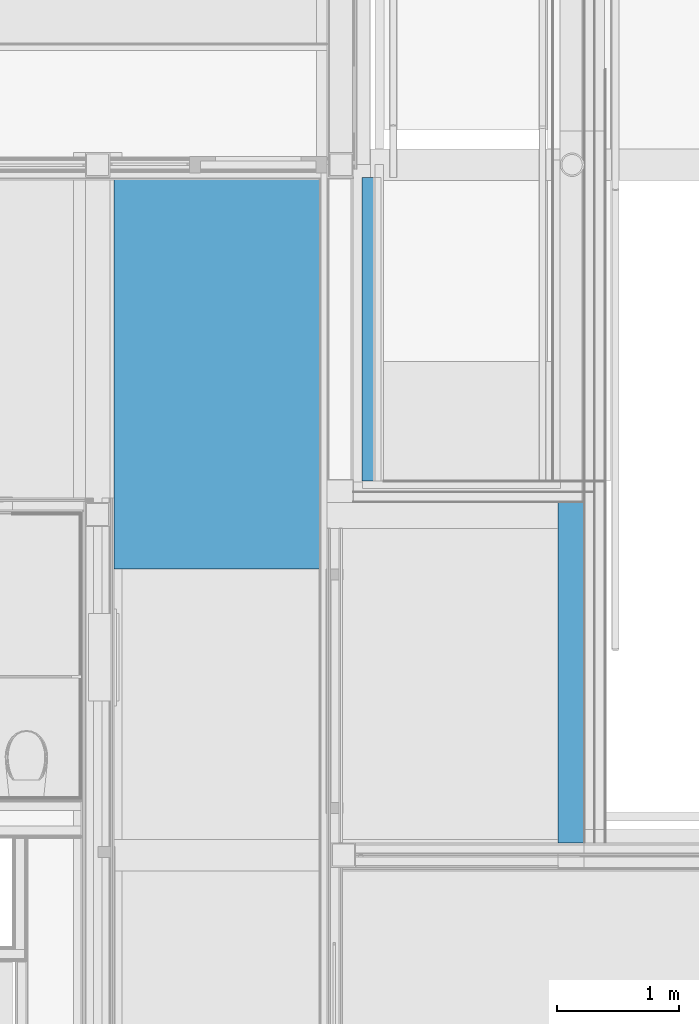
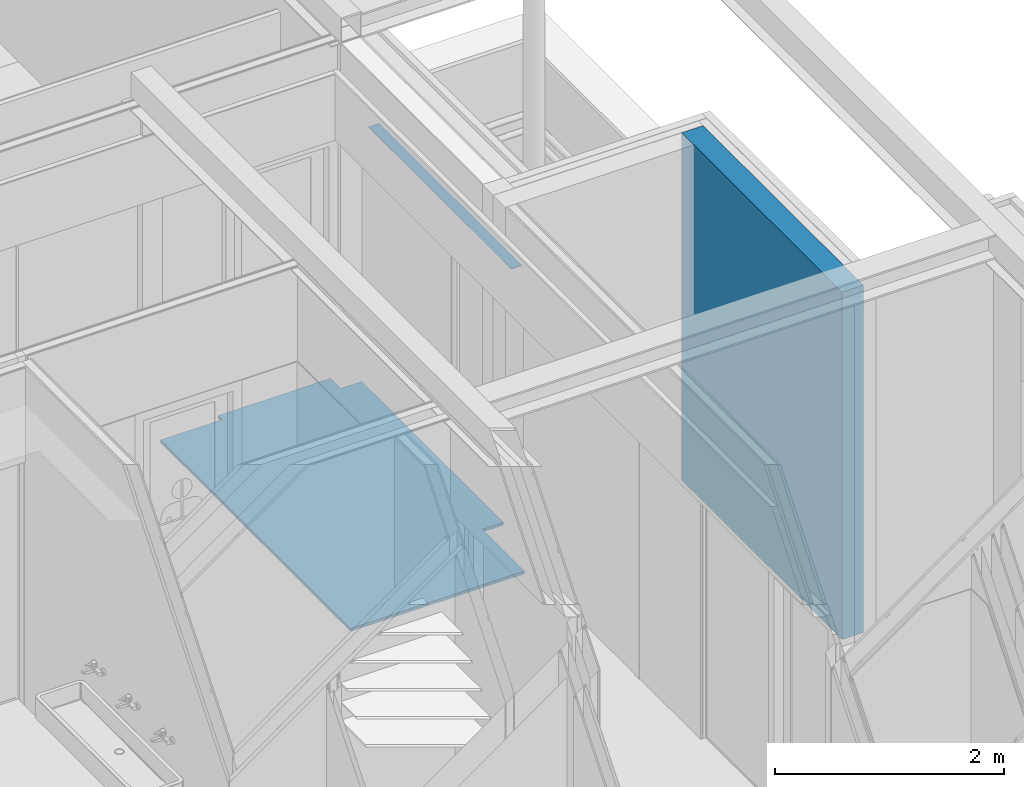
# One storey, part 90 of 137: 3 building element parts, 3 elements without a shape of their own.
"""IFC2X3 building model written with IfcOpenShell, lengths in millimetres."""

from ifc_helpers import new_model, entity, si_unit, converted_unit, derived_unit, money_unit, direction, frame, origin_with_axes, place, context, subcontext, project, spatial, faceted_brep, material, type_object, element, aggregate, save


model = new_model("IFC2X3")

# Units and contexts
model_context = context("Model", 3, precision=0.01, world=origin_with_axes(), true_north=direction((0.0, 1.0)))
body_context = subcontext(model_context, "Body", "Model", "MODEL_VIEW")
ifc_project = project(units=[si_unit("LENGTHUNIT", "METRE", prefix="MILLI"), si_unit("AREAUNIT", "SQUARE_METRE"), si_unit("VOLUMEUNIT", "CUBIC_METRE"), converted_unit("PLANEANGLEUNIT", "DEGREE", entity("IfcPlaneAngleMeasure", 0.0174532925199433), si_unit("PLANEANGLEUNIT", "RADIAN"), dimensions=[0, 0, 0, 0, 0, 0, 0]), money_unit("EUR"), converted_unit("TIMEUNIT", "Year", entity("IfcTimeMeasure", 31556926.0), si_unit("TIMEUNIT", "SECOND"), dimensions=[0, 0, 1, 0, 0, 0, 0]), si_unit("MASSUNIT", "GRAM", prefix="KILO"), si_unit("THERMODYNAMICTEMPERATUREUNIT", "DEGREE_CELSIUS"), si_unit("LUMINOUSINTENSITYUNIT", "LUMEN"), si_unit("ENERGYUNIT", "JOULE", prefix="MEGA"), derived_unit("THERMALCONDUCTANCEUNIT", [(si_unit("POWERUNIT", "WATT"), 1), (si_unit("LENGTHUNIT", "METRE"), -1), (si_unit("THERMODYNAMICTEMPERATUREUNIT", "KELVIN"), -1)]), derived_unit("SPECIFICHEATCAPACITYUNIT", [(si_unit("ENERGYUNIT", "JOULE"), 1), (si_unit("MASSUNIT", "GRAM", prefix="KILO"), -1), (si_unit("THERMODYNAMICTEMPERATUREUNIT", "KELVIN"), -1)]), derived_unit("MASSDENSITYUNIT", [(si_unit("MASSUNIT", "GRAM", prefix="KILO"), 1), (si_unit("VOLUMEUNIT", "CUBIC_METRE"), -1)])], contexts=[model_context])

# Site, building, storey
site_placement = place(None, origin_with_axes())
site = spatial("IfcSite", under=ifc_project, at=site_placement, Name="Site", CompositionType="ELEMENT")
building_placement = place(site_placement, origin_with_axes())
building = spatial("IfcBuilding", under=site, at=building_placement, Name="Naam gebouw", CompositionType="ELEMENT")
storey_placement = place(building_placement, frame((0.0, 0.0, 3960.0), z_axis=(0.0, 0.0, 1.0), x_axis=(1.0, 0.0, 0.0)))
storey = spatial("IfcBuildingStorey", under=building, at=storey_placement, Name="1e verdieping", CompositionType="ELEMENT", Elevation=3960.0)

# Wall, building element part
wall_type = type_object("IfcWallType", Name="21 STO Buitengevelisolatie 160 390", PredefinedType="NOTDEFINED")
wall_placement = place(storey_placement, frame((28500.00002397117, 19550.00039292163, -100.0000000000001), z_axis=(0.0, 0.0, 1.0), x_axis=(0.0, -1.0, 0.0)))
wall = element("IfcWall", 1, at=wall_placement, inside=storey, type_object=wall_type, Name="21_Wand-x")
ifc_material_1 = material(Name="Steen - Kalkzandsteen C")
building_element_part_1_placement = place(wall_placement, origin_with_axes())
building_element_part_1 = element("IfcBuildingElementPart", 2, at=building_element_part_1_placement, material=ifc_material_1, Name="Steen - Kalkzandsteen C", context=body_context, shape_type="Brep", body=[
    faceted_brep([(0.0, 0.0, 0.0), (0.0, -213.9999999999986, 0.0), (0.0, -213.9999999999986, 3700.0), (0.0, 0.0, 3700.0), (2799.002611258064, 0.0, 0.0), (2799.002611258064, -213.9999999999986, 0.0), (2799.002611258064, -213.9999999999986, 3700.0), (2799.002611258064, 0.0, 3700.0)], [[[0, 1, 2, 3]], [[0, 4, 5, 1]], [[1, 5, 6, 2]], [[2, 6, 7, 3]], [[4, 0, 3, 7]], [[5, 4, 7, 6]]]),
])
aggregate(wall, [building_element_part_1])

# Beam, building element part
beam_type = type_object("IfcBeamType", Name="41 Latei/geveldrager 158 x 112", PredefinedType="BEAM")
beam_placement = place(storey_placement, frame((26780.0, 22221.00039272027, 2610.0), z_axis=(0.0, 0.0, 1.0), x_axis=(-1.0, 0.0, 0.0)))
beam = element("IfcBeam", 3, at=beam_placement, inside=storey, type_object=beam_type, Name="_Regenwaterafvoer-x", ObjectType="BEAM")
ifc_material_2 = material(Name="Metaal - Staal C")
building_element_part_2_placement = place(beam_placement, origin_with_axes())
building_element_part_2 = element("IfcBuildingElementPart", 4, at=building_element_part_2_placement, material=ifc_material_2, Name="Metaal - Staal C", context=body_context, shape_type="Brep", body=[
    faceted_brep([(3.000000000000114, 2494.999999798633, -3.000000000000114), (108.0000000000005, 2494.999999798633, -3.000000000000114), (108.0000000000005, 0.0, -3.000000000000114), (3.000000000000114, 0.0, -3.000000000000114), (3.000000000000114, 2494.999999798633, 0.0), (108.0000000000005, 2494.999999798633, 0.0), (108.0000000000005, 0.0, 0.0), (3.000000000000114, 0.0, 0.0)], [[[0, 1, 2, 3]], [[0, 4, 5, 1]], [[1, 5, 6, 2]], [[3, 2, 6, 7]], [[4, 0, 3, 7]], [[5, 4, 7, 6]]]),
])
aggregate(beam, [building_element_part_2])

# Slab, building element part
slab_type = type_object("IfcSlabType", Name="43 Zwevende dekvloer 100", PredefinedType="NOTDEFINED")
slab_placement = place(storey_placement, frame((24634.99903999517, 19003.49778166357, 0.0), z_axis=(0.0, 0.0, 1.0), x_axis=(1.0, 0.0, 0.0)))
slab = element("IfcSlab", 5, at=slab_placement, inside=storey, type_object=slab_type, Name="_Vloer-x", PredefinedType="NOTDEFINED")
ifc_material_3 = material(Name="Isolatie - XPS zwevende dekvloer")
building_element_part_3_placement = place(slab_placement, origin_with_axes())
building_element_part_3 = element("IfcBuildingElementPart", 6, at=building_element_part_3_placement, material=ifc_material_3, Name="Isolatie - XPS zwevende dekvloer", context=body_context, shape_type="Brep", body=[
    faceted_brep([(0.0, 0.0, -100.0000000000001), (1751.000935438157, 0.0, -100.0000000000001), (1751.000935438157, 0.0, -69.99999999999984), (0.0, 0.0, -69.99999999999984), (0.0, 3313.978444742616, -100.0000000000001), (621.0009473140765, 3313.978444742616, -100.0000000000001), (621.0009473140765, 3383.978432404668, -100.0000000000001), (1751.000985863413, 3383.978432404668, -100.0000000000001), (1751.000985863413, 3207.502591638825, -100.0000000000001), (1965.000982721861, 3207.502591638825, -100.0000000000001), (1965.000982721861, 732.5026352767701, -100.0000000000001), (1751.000935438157, 732.5026352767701, -100.0000000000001), (1751.000935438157, 732.5026352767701, -69.99999999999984), (1965.000982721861, 732.5026352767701, -69.99999999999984), (1965.000982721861, 3207.502591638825, -69.99999999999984), (1751.000985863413, 3207.502591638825, -69.99999999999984), (1751.000985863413, 3383.978432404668, -69.99999999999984), (621.0009473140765, 3383.978432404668, -69.99999999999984), (621.0009473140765, 3313.978444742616, -69.99999999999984), (0.0, 3313.978444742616, -69.99999999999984)], [[[0, 1, 2, 3]], [[0, 4, 5, 6, 7, 8, 9, 10, 11, 1]], [[1, 11, 12, 2]], [[3, 2, 12, 13, 14, 15, 16, 17, 18, 19]], [[4, 0, 3, 19]], [[5, 4, 19, 18]], [[6, 5, 18, 17]], [[7, 6, 17, 16]], [[8, 7, 16, 15]], [[9, 8, 15, 14]], [[10, 9, 14, 13]], [[11, 10, 13, 12]]]),
])
aggregate(slab, [building_element_part_3])

save(model, "model.ifc")
